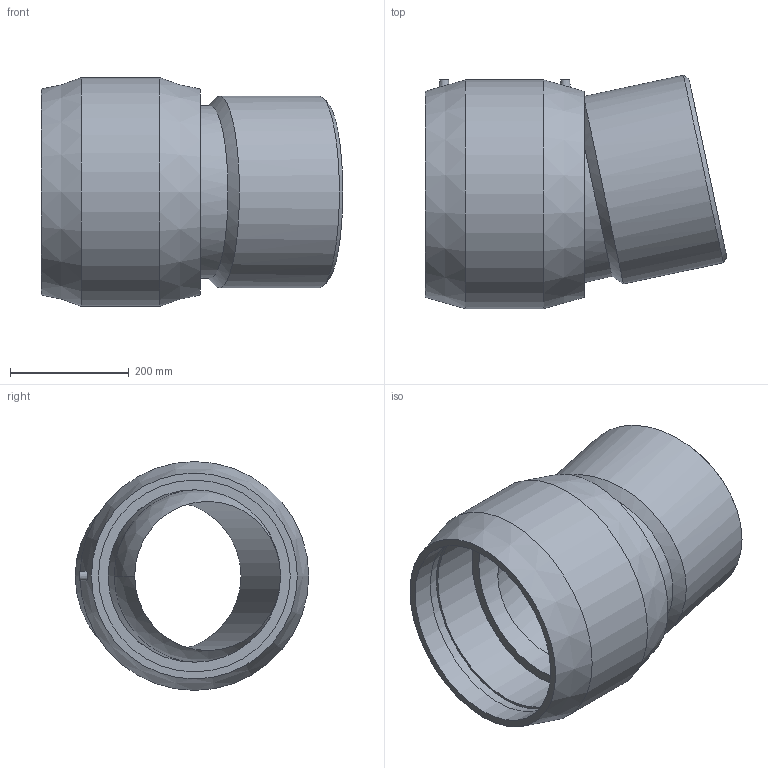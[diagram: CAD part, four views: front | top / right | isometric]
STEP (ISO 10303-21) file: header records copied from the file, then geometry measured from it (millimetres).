
FILE_DESCRIPTION(/* description */ ('PLASSON ADJUSTABLE ELBOW (ONE SIDE) ASTM 12'''' IPS'),/* implementation_level */ '2;1');
FILE_NAME(/* name */ 'C:\Dropbox\KIMPROJECTS-Inventor 2019\99-16-3568-Processing Inch\ASTM ElectroFusion 2021\5947BOS\5947B0S3120.ipt.stp',/* time_stamp */ '2021-08-30T09:53:13+03:00',/* author */ ('KIM'),/* organization */ (''),/* preprocessor_version */ 'ST-DEVELOPER v17.2',/* originating_system */ 'Autodesk Inventor 2019',/* authorisation */ '');
FILE_SCHEMA (('AUTOMOTIVE_DESIGN { 1 0 10303 214 3 1 1 }'));
Length unit declared in the file: inch
Products named in the file (1): 5947B0S3120
Bounding box: 508.93 x 394 x 386.08 mm (x, y, z)
Volume: 17604341.2 mm3; surface area: 1167596.1 mm2
Topology: 1 solids, 1 shells, 32 faces, 74 edges, 51 vertices
Faces by surface type: cylinder 12, plane 11, cone 7, sphere 2
Full cylindrical faces by diameter (mm): 4 x2, 10 x2, 251.731 x1, 291.06 x1, 323.4 x3, 386.08 x1
Entity records: 1119 total; most frequent: CARTESIAN_POINT 288, DIRECTION 186, ORIENTED_EDGE 148, AXIS2_PLACEMENT_3D 85, EDGE_CURVE 74, VERTEX_POINT 51, EDGE_LOOP 43, CIRCLE 42
